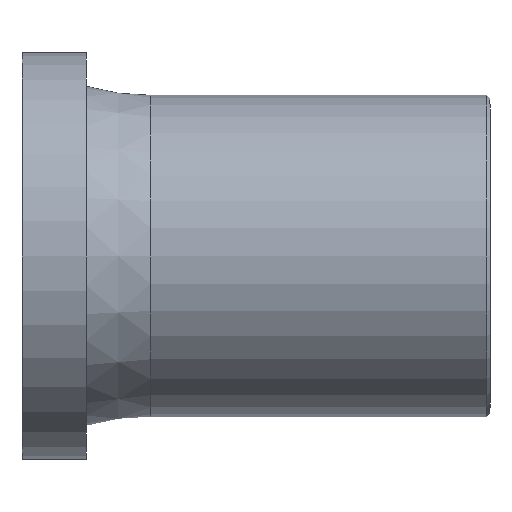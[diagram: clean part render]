
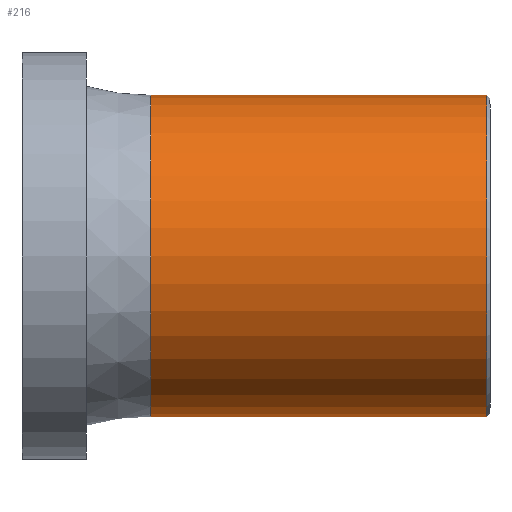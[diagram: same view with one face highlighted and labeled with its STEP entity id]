
A CAD part, front view. The second image highlights one B-rep face of the part: STEP entity #216.
In plain terms, the highlighted cylindrical face has radius 62.5 mm (diameter 125 mm), a full revolution.
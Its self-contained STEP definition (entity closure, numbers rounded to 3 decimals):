
#24=CYLINDRICAL_SURFACE('',#240,62.5);
#34=FACE_BOUND('',#76,.T.);
#54=FACE_OUTER_BOUND('',#75,.T.);
#75=EDGE_LOOP('',(#175));
#76=EDGE_LOOP('',(#176));
#113=CIRCLE('',#238,62.5);
#115=CIRCLE('',#241,62.5);
#133=VERTEX_POINT('',#361);
#135=VERTEX_POINT('',#366);
#153=EDGE_CURVE('',#133,#133,#113,.T.);
#155=EDGE_CURVE('',#135,#135,#115,.T.);
#175=ORIENTED_EDGE('',*,*,#155,.T.);
#176=ORIENTED_EDGE('',*,*,#153,.F.);
#216=ADVANCED_FACE('',(#54,#34),#24,.T.);
#238=AXIS2_PLACEMENT_3D('',#362,#281,#282);
#240=AXIS2_PLACEMENT_3D('',#365,#285,#286);
#241=AXIS2_PLACEMENT_3D('',#367,#287,#288);
#281=DIRECTION('center_axis',(1.,0.,0.));
#282=DIRECTION('ref_axis',(0.,-1.,0.));
#285=DIRECTION('center_axis',(1.,0.,0.));
#286=DIRECTION('ref_axis',(0.,1.,0.));
#287=DIRECTION('center_axis',(1.,0.,0.));
#288=DIRECTION('ref_axis',(0.,0.,-1.));
#361=CARTESIAN_POINT('',(-1.25,62.5,0.));
#362=CARTESIAN_POINT('Origin',(-1.25,0.,
0.));
#365=CARTESIAN_POINT('Origin',(-66.,0.,0.));
#366=CARTESIAN_POINT('',(-132.,62.5,0.));
#367=CARTESIAN_POINT('Origin',(-132.,0.,0.));
